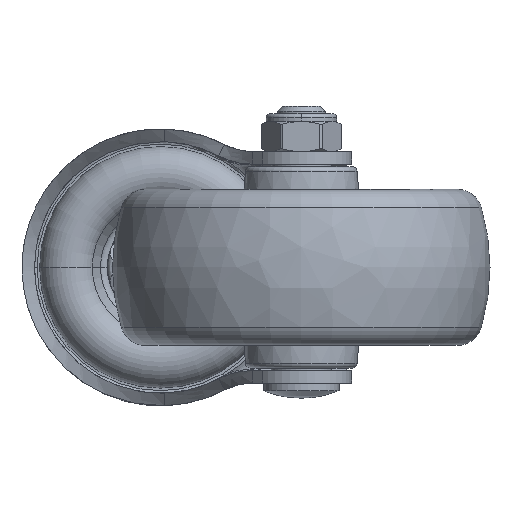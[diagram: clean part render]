
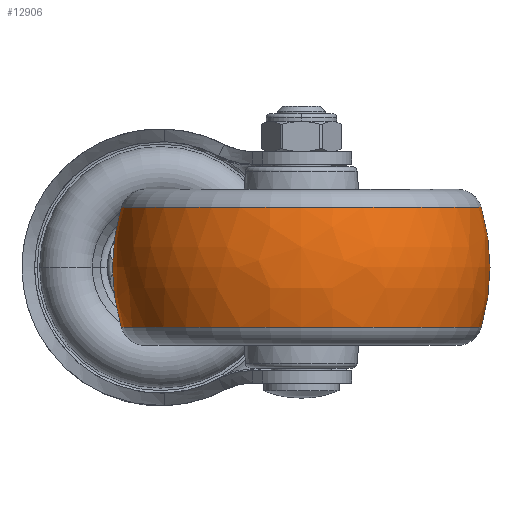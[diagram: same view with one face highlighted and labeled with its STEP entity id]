
A CAD part, front view. The second image highlights one B-rep face of the part: STEP entity #12906.
In plain terms, the highlighted free-form (B-spline) face has degree [3, 3] with [7, 4] control points.
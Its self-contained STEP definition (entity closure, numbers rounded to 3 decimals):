
#12689=CARTESIAN_POINT('',(-11.929,0.,0.));
#12690=DIRECTION('',(-1.,0.,0.));
#12691=DIRECTION('',(0.,1.,0.));
#12692=AXIS2_PLACEMENT_3D('',#12689,#12690,#12691);
#12704=CARTESIAN_POINT('',(0.,-4.25,0.));
#12705=DIRECTION('',(0.,0.,1.));
#12706=DIRECTION('',(0.286,0.958,0.));
#12707=AXIS2_PLACEMENT_3D('',#12704,#12705,#12706);
#12709=CARTESIAN_POINT('',(0.,4.25,0.));
#12710=DIRECTION('',(0.,0.,-1.));
#12711=DIRECTION('',(0.286,-0.958,0.));
#12712=AXIS2_PLACEMENT_3D('',#12709,#12710,#12711);
#12714=CARTESIAN_POINT('',(11.929,0.,0.));
#12715=DIRECTION('',(-1.,0.,0.));
#12716=DIRECTION('',(0.,1.,0.));
#12717=AXIS2_PLACEMENT_3D('',#12714,#12715,#12716);
#12782=CARTESIAN_POINT('',(11.929,35.76,0.));
#12784=VERTEX_POINT('',#12782);
#12785=CARTESIAN_POINT('',(-11.929,35.76,0.));
#12786=VERTEX_POINT('',#12785);
#12794=CARTESIAN_POINT('',(11.929,-35.76,0.));
#12796=VERTEX_POINT('',#12794);
#12797=CARTESIAN_POINT('',(-11.929,-35.76,0.));
#12798=VERTEX_POINT('',#12797);
#12870=CARTESIAN_POINT('',(-12.391,-35.548,
2.237));
#12871=CARTESIAN_POINT('',(-4.258,-38.071,
2.395));
#12872=CARTESIAN_POINT('',(4.258,-38.071,
2.395));
#12873=CARTESIAN_POINT('',(12.391,-35.548,
2.237));
#12874=CARTESIAN_POINT('',(-12.391,-36.925,
-19.64));
#12875=CARTESIAN_POINT('',(-4.258,-39.545,
-21.034));
#12876=CARTESIAN_POINT('',(4.258,-39.545,
-21.034));
#12877=CARTESIAN_POINT('',(12.391,-36.925,
-19.64));
#12878=CARTESIAN_POINT('',(-12.391,-21.92,
-35.619));
#12879=CARTESIAN_POINT('',(-4.258,-23.475,
-38.147));
#12880=CARTESIAN_POINT('',(4.258,-23.475,
-38.147));
#12881=CARTESIAN_POINT('',(12.391,-21.92,
-35.619));
#12882=CARTESIAN_POINT('',(-12.391,0.,-35.619));
#12883=CARTESIAN_POINT('',(-4.258,0.,-38.147));
#12884=CARTESIAN_POINT('',(4.258,0.,-38.147));
#12885=CARTESIAN_POINT('',(12.391,0.,-35.619));
#12886=CARTESIAN_POINT('',(-12.391,21.92,
-35.619));
#12887=CARTESIAN_POINT('',(-4.258,23.475,
-38.147));
#12888=CARTESIAN_POINT('',(4.258,23.475,
-38.147));
#12889=CARTESIAN_POINT('',(12.391,21.92,
-35.619));
#12890=CARTESIAN_POINT('',(-12.391,36.925,
-19.64));
#12891=CARTESIAN_POINT('',(-4.258,39.545,
-21.034));
#12892=CARTESIAN_POINT('',(4.258,39.545,
-21.034));
#12893=CARTESIAN_POINT('',(12.391,36.925,
-19.64));
#12894=CARTESIAN_POINT('',(-12.391,35.548,
2.237));
#12895=CARTESIAN_POINT('',(-4.258,38.071,
2.395));
#12896=CARTESIAN_POINT('',(4.258,38.071,2.395));
#12897=CARTESIAN_POINT('',(12.391,35.548,2.237));
#12898=(BOUNDED_SURFACE()B_SPLINE_SURFACE(3,3,((#12870,#12871,#12872,#12873),(
#12874,#12875,#12876,#12877),(#12878,#12879,#12880,#12881),(#12882,#12883,
#12884,#12885),(#12886,#12887,#12888,#12889),(#12890,#12891,#12892,#12893),(
#12894,#12895,#12896,#12897)),.UNSPECIFIED.,.F.,.F.,.F.)B_SPLINE_SURFACE_WITH_KNOTS((4,3,4),(4,4),(0.,1.,2.),(0.,1.),.UNSPECIFIED.)GEOMETRIC_REPRESENTATION_ITEM()RATIONAL_B_SPLINE_SURFACE(((1.215,1.178,
1.178,1.215),(0.959,0.93,
0.93,0.959),(0.959,0.93,
0.93,0.959),(1.215,1.178,
1.178,1.215),(0.959,0.93,
0.93,0.959),(0.959,0.93,
0.93,0.959),(1.215,1.178,
1.178,1.215)))REPRESENTATION_ITEM('')SURFACE());
#12899=ORIENTED_EDGE('',*,*,#12860,.T.);
#12900=ORIENTED_EDGE('',*,*,#12812,.T.);
#12901=ORIENTED_EDGE('',*,*,#12864,.F.);
#12903=ORIENTED_EDGE('',*,*,#12902,.F.);
#12904=EDGE_LOOP('',(#12899,#12900,#12901,#12903));
#12905=FACE_OUTER_BOUND('',#12904,.F.);
#12693=CIRCLE('',#12692,35.76);
#12708=CIRCLE('',#12707,41.75);
#12713=CIRCLE('',#12712,41.75);
#12718=CIRCLE('',#12717,35.76);
#12812=EDGE_CURVE('',#12786,#12798,#12693,.T.);
#12860=EDGE_CURVE('',#12784,#12786,#12708,.T.);
#12864=EDGE_CURVE('',#12796,#12798,#12713,.T.);
#12902=EDGE_CURVE('',#12784,#12796,#12718,.T.);
#12906=ADVANCED_FACE('',(#12905),#12898,.T.);
